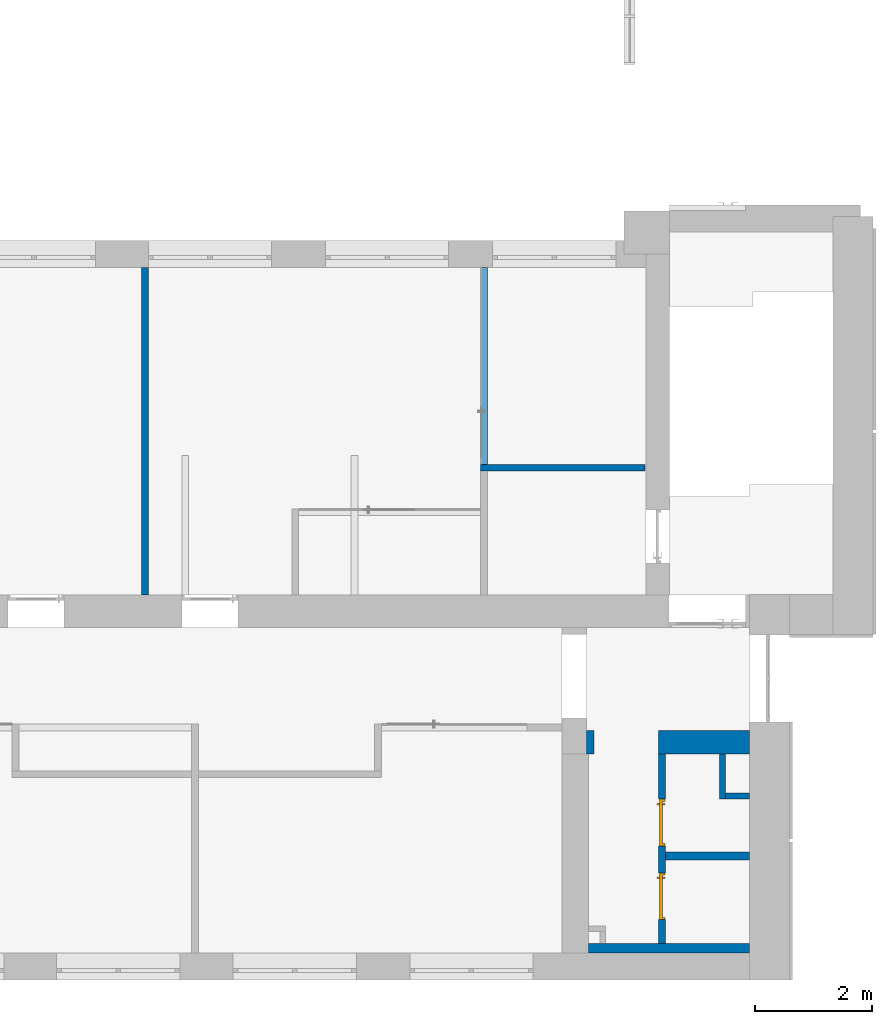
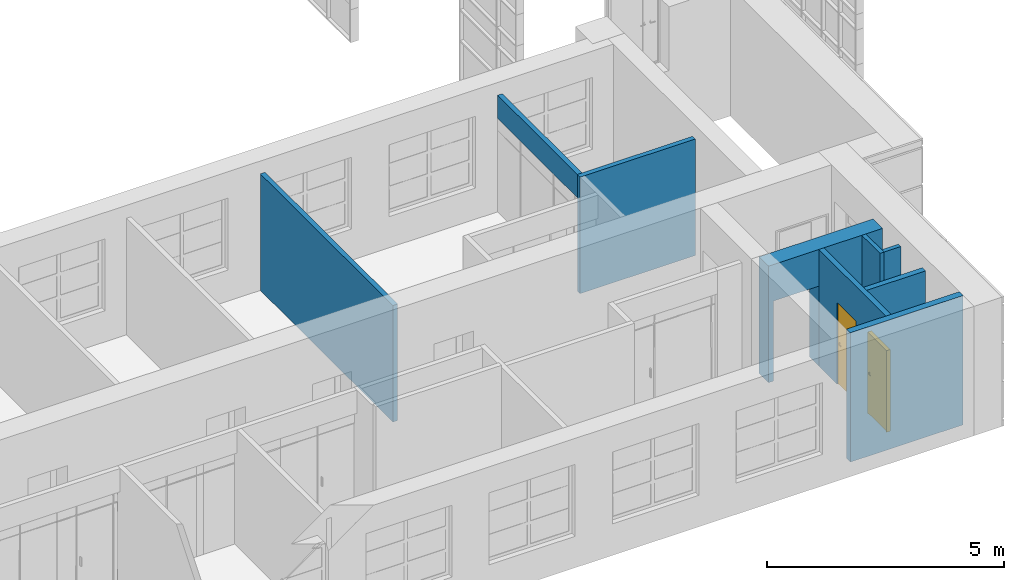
# One storey, part 68 of 73: 9 walls, 2 doors, 3 openings.
"""IFC2X3 building model written with IfcOpenShell, lengths in millimetres."""

from ifc_helpers import new_model, entity, si_unit, converted_unit, derived_unit, direction, frame, frame_2d, origin, origin_2d_with_axis, place, context, subcontext, project, spatial, polyline, rectangle, extrude, clip, bounded_halfspace, faceted_brep, source, transform, mapped, material, material_list, layer, layer_set, layer_usage, type_object, type_shapes, element, fill, save


model = new_model("IFC2X3")

# Units and contexts
model_context = context("Model", 3, precision=0.01, world=origin(), true_north=direction((6.12303176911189e-17, 1.0)))
body_context = subcontext(model_context, "Body", "Model", "MODEL_VIEW")
ifc_project = project(units=[si_unit("LENGTHUNIT", "METRE", prefix="MILLI"), si_unit("AREAUNIT", "SQUARE_METRE"), si_unit("VOLUMEUNIT", "CUBIC_METRE"), converted_unit("PLANEANGLEUNIT", "DEGREE", entity("IfcRatioMeasure", 0.0174532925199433), si_unit("PLANEANGLEUNIT", "RADIAN"), dimensions=[0, 0, 0, 0, 0, 0, 0]), si_unit("MASSUNIT", "GRAM", prefix="KILO"), derived_unit("MASSDENSITYUNIT", [(si_unit("MASSUNIT", "GRAM", prefix="KILO"), 1), (si_unit("LENGTHUNIT", "METRE"), -3)]), si_unit("TIMEUNIT", "SECOND"), si_unit("FREQUENCYUNIT", "HERTZ"), si_unit("THERMODYNAMICTEMPERATUREUNIT", "DEGREE_CELSIUS"), derived_unit("THERMALTRANSMITTANCEUNIT", [(si_unit("MASSUNIT", "GRAM", prefix="KILO"), 1), (si_unit("THERMODYNAMICTEMPERATUREUNIT", "KELVIN"), -1), (si_unit("TIMEUNIT", "SECOND"), -3)]), derived_unit("VOLUMETRICFLOWRATEUNIT", [(si_unit("LENGTHUNIT", "METRE"), 3), (si_unit("TIMEUNIT", "SECOND"), -1)]), si_unit("ELECTRICCURRENTUNIT", "AMPERE"), si_unit("ELECTRICVOLTAGEUNIT", "VOLT"), si_unit("POWERUNIT", "WATT"), si_unit("FORCEUNIT", "NEWTON", prefix="KILO"), si_unit("ILLUMINANCEUNIT", "LUX"), si_unit("LUMINOUSFLUXUNIT", "LUMEN"), si_unit("LUMINOUSINTENSITYUNIT", "CANDELA"), derived_unit("USERDEFINED", [(si_unit("MASSUNIT", "GRAM", prefix="KILO"), -1), (si_unit("LENGTHUNIT", "METRE"), -2), (si_unit("TIMEUNIT", "SECOND"), 3), (si_unit("LUMINOUSFLUXUNIT", "LUMEN"), 1)]), derived_unit("LINEARVELOCITYUNIT", [(si_unit("LENGTHUNIT", "METRE"), 1), (si_unit("TIMEUNIT", "SECOND"), -1)]), si_unit("PRESSUREUNIT", "PASCAL"), derived_unit("USERDEFINED", [(si_unit("LENGTHUNIT", "METRE"), -2), (si_unit("MASSUNIT", "GRAM", prefix="KILO"), 1), (si_unit("TIMEUNIT", "SECOND"), -2)])], contexts=[model_context])

# Site, building, storey
site_placement = place(None, frame((-151.875543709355, 2715.0, 0.0)))
site = spatial("IfcSite", under=ifc_project, at=site_placement, Name="Surface", CompositionType="ELEMENT")
building_placement = place(site_placement, origin())
building = spatial("IfcBuilding", under=site, at=building_placement, CompositionType="ELEMENT")
storey_placement = place(building_placement, frame((0.0, 0.0, 6730.43000000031)))
storey = spatial("IfcBuildingStorey", under=building, at=storey_placement, Name="3 korrus", CompositionType="ELEMENT", Elevation=6730.43000000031)

# Wall, opening
ifc_material_1 = material(Name="__Hall krohv")
ifc_layer_1 = layer(ifc_material_1, 10.0)
ifc_material_2 = material(Name="Tellis")
ifc_layer_2 = layer(ifc_material_2, 380.0)
ifc_layer_3 = layer(ifc_material_1, 10.0)
ifc_layer_set_1 = layer_set([ifc_layer_1, ifc_layer_2, ifc_layer_3], Name="Basic Wall:SS-01_ol.olev tellissein400")
ifc_layer_usage_1 = layer_usage(ifc_layer_set_1, "AXIS2", "NEGATIVE", 200.0)
wall_type_1 = type_object("IfcWallType", Name="Basic Wall:SS-01_ol.olev tellissein400", PredefinedType="STANDARD", material=ifc_layer_set_1)
wall_1_placement = place(storey_placement, frame((33741.6162682, 4053.84289844, 0.00203353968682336), z_axis=(0.0, 0.0, 1.0), x_axis=(-1.0, 0.0, 0.0)))
wall_1 = element("IfcWallStandardCase", 1, at=wall_1_placement, inside=storey, type_object=wall_type_1, material=ifc_layer_usage_1, Name="SEIN - 002", ObjectType="Basic Wall:SS-01_ol.olev tellissein400", context=body_context, shape_type="SweptSolid", body=[
    extrude(rectangle(XDim=2777.5991088, YDim=400.0, at=frame_2d((1388.7995544, 0.0), x_axis=(-1.0, 0.0))), origin(), (0.0, 0.0, 1.0), 2999.56796646),
])
opening_1_placement = place(wall_1_placement, origin())
element("IfcOpeningElement", 2, at=opening_1_placement, cuts=wall_1, Name="SEIN - 002", ObjectType="Opening", context=body_context, shape_type="SweptSolid", body=[
    extrude(rectangle(XDim=2057.662963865, YDim=1100.07592736, at=origin_2d_with_axis()), frame((2105.43835439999, -200.0, 1028.8314819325), z_axis=(0.0, 1.0, 0.0), x_axis=(0.0, 0.0, -1.0)), (0.0, 0.0, 1.0), 400.0),
])

# Walls
ifc_material_3 = material(Name="__Kips GN13_tava")
ifc_layer_4 = layer(ifc_material_3, 12.5)
ifc_layer_5 = layer(ifc_material_3, 12.5)
ifc_material_4 = material(Name="__Soojustus EPS")
ifc_layer_6 = layer(ifc_material_4, 66.0)
ifc_layer_7 = layer(ifc_material_3, 12.5)
ifc_layer_8 = layer(ifc_material_3, 12.5)
ifc_layer_set_2 = layer_set([ifc_layer_4, ifc_layer_5, ifc_layer_6, ifc_layer_7, ifc_layer_8], Name="Basic Wall:SS-3_Kipssein tava ruumide vahel")
ifc_layer_usage_2 = layer_usage(ifc_layer_set_2, "AXIS2", "NEGATIVE", 58.0)
wall_type_2 = type_object("IfcWallType", Name="Basic Wall:SS-3_Kipssein tava ruumide vahel", PredefinedType="STANDARD", material=ifc_layer_set_2)
wall_2_placement = place(storey_placement, frame((23435.05309771, 12150.0, 0.0), z_axis=(0.0, 0.0, 1.0), x_axis=(0.0, -1.0, 0.0)))
element("IfcWallStandardCase", 3, at=wall_2_placement, inside=storey, type_object=wall_type_2, material=ifc_layer_usage_2, Name="Basic Wall:SS-3_Kipssein tava ruumide vahel", ObjectType="Basic Wall:SS-3_Kipssein tava ruumide vahel", context=body_context, shape_type="SweptSolid", body=[
    extrude(rectangle(XDim=5590.0, YDim=116.0, at=frame_2d((2795.0, 0.0), x_axis=(-1.0, 0.0))), origin(), (0.0, 0.0, 1.0), 3000.0),
])
ifc_layer_usage_3 = layer_usage(ifc_layer_set_2, "AXIS2", "NEGATIVE", 58.0)
wall_3_placement = place(storey_placement, frame((29213.6162681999, 12150.0, 2400.0), z_axis=(0.0, 0.0, 1.0), x_axis=(0.0, -1.0, 0.0)))
element("IfcWallStandardCase", 4, at=wall_3_placement, inside=storey, type_object=wall_type_2, material=ifc_layer_usage_3, Name="Basic Wall:SS-3_Kipssein tava ruumide vahel", ObjectType="Basic Wall:SS-3_Kipssein tava ruumide vahel", context=body_context, shape_type="SweptSolid", body=[
    extrude(rectangle(XDim=3360.1702761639, YDim=116.0, at=frame_2d((1680.08513808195, -1.3855583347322e-13), x_axis=(-1.0, 0.0))), origin(), (0.0, 0.0, 1.0), 599.999999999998),
])
ifc_layer_9 = layer(ifc_material_3, 12.5)
ifc_layer_10 = layer(ifc_material_3, 12.5)
ifc_layer_11 = layer(ifc_material_4, 66.0)
ifc_layer_12 = layer(ifc_material_3, 12.5)
ifc_layer_13 = layer(ifc_material_3, 12.5)
ifc_layer_set_3 = layer_set([ifc_layer_9, ifc_layer_10, ifc_layer_11, ifc_layer_12, ifc_layer_13], Name="Basic Wall:SS-3*_Kipssein EI-60")
ifc_layer_usage_4 = layer_usage(ifc_layer_set_3, "AXIS2", "NEGATIVE", 58.0)
wall_type_3 = type_object("IfcWallType", Name="Basic Wall:SS-3*_Kipssein EI-60", PredefinedType="STANDARD", material=ifc_layer_set_3)
wall_4_placement = place(storey_placement, frame((31962.6162682, 8731.82972383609, 0.0), z_axis=(0.0, 0.0, 1.0), x_axis=(-1.0, 0.0, 0.0)))
element("IfcWallStandardCase", 5, at=wall_4_placement, inside=storey, type_object=wall_type_3, material=ifc_layer_usage_4, Name="Basic Wall:SS-3*_Kipssein EI-60", ObjectType="Basic Wall:SS-3*_Kipssein EI-60", context=body_context, shape_type="SweptSolid", body=[
    extrude(rectangle(XDim=2807.00000000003, YDim=116.0, at=frame_2d((1403.50000000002, 1.74082970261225e-13), x_axis=(-1.0, 0.0))), origin(), (0.0, 0.0, 1.0), 3000.0),
])
ifc_material_5 = material(Name="GENEERILINE - KONSTRUKTRIOON")
ifc_layer_14 = layer(ifc_material_5, 160.0)
ifc_layer_set_4 = layer_set([ifc_layer_14], Name="Basic Wall:GENEERILINE - KONSTRUKTRIOON 160")
ifc_layer_usage_5 = layer_usage(ifc_layer_set_4, "AXIS2", "NEGATIVE", 80.0)
wall_type_4 = type_object("IfcWallType", Name="Basic Wall:GENEERILINE - KONSTRUKTRIOON 160", PredefinedType="STANDARD", material=ifc_layer_set_4)
wall_5_placement = place(storey_placement, frame((30994.0171594, 539.904632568, 0.00203353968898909)))
element("IfcWallStandardCase", 6, at=wall_5_placement, inside=storey, type_object=wall_type_4, material=ifc_layer_usage_5, Name="SEIN - 010", ObjectType="Basic Wall:GENEERILINE - KONSTRUKTRIOON 160", context=body_context, shape_type="SweptSolid", body=[
    extrude(rectangle(XDim=2747.5991088, YDim=160.0, at=frame_2d((1373.7995544, 0.0), x_axis=(-1.0, 0.0))), origin(), (0.0, 0.0, 1.0), 3329.56796646),
])
ifc_material_6 = material(Name="Keraamiline_plaat")
ifc_layer_15 = layer(ifc_material_6, 10.0)
ifc_material_7 = material(Name="__Kips GKB_niiskuskindel")
ifc_layer_16 = layer(ifc_material_7, 12.5)
ifc_layer_17 = layer(ifc_material_7, 12.5)
ifc_layer_18 = layer(ifc_material_4, 66.0)
ifc_layer_19 = layer(ifc_material_7, 12.5)
ifc_layer_20 = layer(ifc_material_7, 12.5)
ifc_layer_21 = layer(ifc_material_6, 10.0)
ifc_layer_set_5 = layer_set([ifc_layer_15, ifc_layer_16, ifc_layer_17, ifc_layer_18, ifc_layer_19, ifc_layer_20, ifc_layer_21], Name="Basic Wall:SS-5_Kipssein niiskete ruumide vahel")
ifc_layer_usage_6 = layer_usage(ifc_layer_set_5, "AXIS2", "NEGATIVE", 68.0)
wall_type_5 = type_object("IfcWallType", Name="Basic Wall:SS-5_Kipssein niiskete ruumide vahel", PredefinedType="STANDARD", material=ifc_layer_set_5)
wall_6_placement = place(storey_placement, frame((33741.6162682, 2115.77522812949, 0.0), z_axis=(0.0, 0.0, 1.0), x_axis=(-1.0, 0.0, 0.0)))
element("IfcWallStandardCase", 7, at=wall_6_placement, inside=storey, type_object=wall_type_5, material=ifc_layer_usage_6, Name="Basic Wall:SS-5_Kipssein niiskete ruumide vahel", ObjectType="Basic Wall:SS-5_Kipssein niiskete ruumide vahel", context=body_context, shape_type="Clipping", body=[
    clip(extrude(rectangle(XDim=1429.40039062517, YDim=136.0, at=frame_2d((714.700195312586, 0.0), x_axis=(-1.0, 0.0))), origin(), (0.0, 0.0, 1.0), 2999.57000000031), bounded_halfspace(frame((9.00058725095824e-08, -68.0, 2999.57000000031), z_axis=(0.0, 0.0, -1.0), x_axis=(1.0, 0.0, 0.0)), True, frame((9.00058725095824e-08, -68.0, 2999.57000000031)), polyline([(0.0, 0.0), (1429.40039053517, 0.0), (1429.40039053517, 136.0), (-9.00040504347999e-08, 136.0), (0.0, 0.0)]))),
])

# Wall, openings, doors
ifc_layer_22 = layer(ifc_material_3, 12.5)
ifc_layer_23 = layer(ifc_material_3, 12.5)
ifc_layer_24 = layer(ifc_material_4, 66.0)
ifc_layer_25 = layer(ifc_material_7, 12.5)
ifc_layer_26 = layer(ifc_material_7, 12.5)
ifc_layer_27 = layer(ifc_material_6, 10.0)
ifc_layer_set_6 = layer_set([ifc_layer_22, ifc_layer_23, ifc_layer_24, ifc_layer_25, ifc_layer_26, ifc_layer_27], Name="Basic Wall:SS-4_Kipssein tava ja niiske ruumi vahel")
ifc_layer_usage_7 = layer_usage(ifc_layer_set_6, "AXIS2", "NEGATIVE", 63.0)
wall_type_6 = type_object("IfcWallType", Name="Basic Wall:SS-4_Kipssein tava ja niiske ruumi vahel", PredefinedType="STANDARD", material=ifc_layer_set_6)
wall_7_placement = place(storey_placement, frame((32249.2158775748, 619.904632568, 0.0), z_axis=(0.0, 0.0, 1.0), x_axis=(0.0, 1.0, 0.0)))
wall_7 = element("IfcWallStandardCase", 8, at=wall_7_placement, inside=storey, type_object=wall_type_6, material=ifc_layer_usage_7, Name="Basic Wall:SS-4_Kipssein tava ja niiske ruumi vahel", ObjectType="Basic Wall:SS-4_Kipssein tava ja niiske ruumi vahel", context=body_context, shape_type="Clipping", body=[
    clip(extrude(rectangle(XDim=3233.938265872, YDim=125.999999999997, at=frame_2d((1616.969132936, 1.06581410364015e-14), x_axis=(-1.0, 0.0))), origin(), (0.0, 0.0, 1.0), 2999.57000000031), bounded_halfspace(frame((0.0, -63.0, 2999.57000000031), z_axis=(0.0, 0.0, -1.0), x_axis=(0.0, 1.0, 0.0)), True, frame((0.0, -63.0, 2999.57000000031)), polyline([(0.0, 0.0), (1427.8705955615, 0.0), (1563.8705955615, 0.0), (3233.938265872, 0.0), (3233.938265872, 126.0), (0.0, 126.0), (0.0, 0.0)]))),
])
opening_2_placement = place(wall_7_placement, frame((407.813171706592, -63.0, 0.0)))
opening_2 = element("IfcOpeningElement", 9, at=opening_2_placement, cuts=wall_7, Name="Ühepoolsed:SU-05:1", ObjectType="Opening", context=body_context, shape_type="SweptSolid", body=[
    extrude(rectangle(XDim=2099.99999999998, YDim=800.0, at=frame_2d((1049.99999999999, 400.0), x_axis=(1.0, 0.0))), frame((0.0, 0.0, 0.0), z_axis=(0.0, 1.0, 0.0), x_axis=(0.0, 0.0, 1.0)), (0.0, 0.0, 1.0), 126.0),
])
opening_3_placement = place(wall_7_placement, frame((1663.87059556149, -63.0, 0.0)))
opening_3 = element("IfcOpeningElement", 10, at=opening_3_placement, cuts=wall_7, Name="Ühepoolsed:SU-05:1", ObjectType="Opening", context=body_context, shape_type="SweptSolid", body=[
    extrude(rectangle(XDim=2099.99999999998, YDim=800.0, at=frame_2d((1049.99999999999, 400.0), x_axis=(1.0, 0.0))), frame((0.0, 0.0, 0.0), z_axis=(0.0, 1.0, 0.0), x_axis=(0.0, 0.0, 1.0)), (0.0, 0.0, 1.0), 126.0),
])
ifc_material_8 = material(Name="_Alumiiniumprofiil - must")
ifc_material_9 = material(Name="__Uks_hele tamm")
ifc_material_list_1 = material_list([ifc_material_8, ifc_material_9])
ifc_material_list_2 = material_list([ifc_material_8, ifc_material_9])
door_style = type_object("IfcDoorStyle", Name="SU-05", ConstructionType="NOTDEFINED", OperationType="FOLDING_TO_LEFT", ParameterTakesPrecedence=False, Sizeable=False, material=ifc_material_list_2)
shared_shape = source(origin(), body_context, "Body", "Brep", [
    faceted_brep([(700.0, 16.0, 1112.5), (605.0, 16.0, 1112.5), (605.0, 11.0, 1112.5), (725.0, 11.0, 1112.5), (725.0, 54.0, 1112.5), (700.0, 54.0, 1112.5), (700.0, 16.0, 1087.5), (700.0, 54.0, 1087.5), (725.0, 54.0, 1087.5), (725.0, 11.0, 1087.5), (605.0, 11.0, 1087.5), (605.0, 16.0, 1087.5)], [[[0, 1, 2, 3, 4, 5]], [[6, 7, 8, 9, 10, 11]], [[5, 7, 6, 0]], [[4, 8, 7, 5]], [[3, 9, 8, 4]], [[2, 10, 9, 3]], [[1, 11, 10, 2]], [[0, 6, 11, 1]]]),
    faceted_brep([(687.500000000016, 54.0, 1137.5), (737.500000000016, 54.0, 1137.5), (737.500000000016, 56.0, 1137.5), (687.500000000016, 56.0, 1137.5), (687.500000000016, 54.0, 1017.5), (687.500000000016, 56.0, 1017.5), (737.500000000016, 56.0, 1017.5), (737.500000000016, 54.0, 1017.5)], [[[0, 1, 2, 3]], [[4, 5, 6, 7]], [[3, 5, 4, 0]], [[2, 6, 5, 3]], [[1, 7, 6, 2]], [[0, 4, 7, 1]]]),
    faceted_brep([(700.0, 146.0, 1112.5), (700.0, 108.0, 1112.5), (725.0, 108.0, 1112.5), (725.0, 151.0, 1112.5), (605.0, 151.0, 1112.5), (605.0, 146.0, 1112.5), (700.0, 146.0, 1087.5), (605.0, 146.0, 1087.5), (605.0, 151.0, 1087.5), (725.0, 151.0, 1087.5), (725.0, 108.0, 1087.5), (700.0, 108.0, 1087.5)], [[[0, 1, 2, 3, 4, 5]], [[6, 7, 8, 9, 10, 11]], [[1, 0, 6, 11]], [[2, 1, 11, 10]], [[3, 2, 10, 9]], [[4, 3, 9, 8]], [[5, 4, 8, 7]], [[0, 5, 7, 6]]]),
    faceted_brep([(687.500000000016, 108.0, 1137.5), (687.500000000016, 106.0, 1137.5), (737.500000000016, 106.0, 1137.5), (737.500000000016, 108.0, 1137.5), (687.500000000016, 108.0, 1017.5), (737.500000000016, 108.0, 1017.5), (737.500000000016, 106.0, 1017.5), (687.500000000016, 106.0, 1017.5)], [[[0, 1, 2, 3]], [[4, 5, 6, 7]], [[1, 0, 4, 7]], [[2, 1, 7, 6]], [[3, 2, 6, 5]], [[0, 3, 5, 4]]]),
    faceted_brep([(0.0, 16.0, 0.0), (0.0, 106.0, 0.0), (25.0, 106.0, 0.0), (25.0, 56.0, 0.0), (40.0, 56.0, 0.0), (40.0, 16.0, 0.0), (40.0, 16.0, 2060.0), (760.0, 16.0, 2060.0), (760.0, 16.0, 0.0), (800.0, 16.0, 0.0), (800.0, 16.0, 2100.0), (0.0, 16.0, 2100.0), (40.0, 56.0, 2060.0), (25.0, 56.0, 2075.0), (775.0, 56.0, 2075.0), (775.0, 56.0, 0.0), (760.0, 56.0, 0.0), (760.0, 56.0, 2060.0), (25.0, 106.0, 2075.0), (0.0, 106.0, 2100.0), (800.0, 106.0, 2100.0), (800.0, 106.0, 0.0), (775.0, 106.0, 0.0), (775.0, 106.0, 2075.0)], [[[0, 1, 2, 3, 4, 5]], [[5, 6, 7, 8, 9, 10, 11, 0]], [[4, 12, 6, 5]], [[3, 13, 14, 15, 16, 17, 12, 4]], [[2, 18, 13, 3]], [[1, 19, 20, 21, 22, 23, 18, 2]], [[0, 11, 19, 1]], [[9, 21, 20, 10]], [[8, 16, 15, 22, 21, 9]], [[7, 17, 16, 8]], [[14, 23, 22, 15]], [[6, 12, 17, 7]], [[13, 18, 23, 14]], [[10, 20, 19, 11]]]),
    faceted_brep([(775.0, 56.0, 2075.0), (25.0, 56.0, 2075.0), (25.0, 56.0, 20.0), (775.0, 56.0, 20.0), (775.0, 106.0, 2075.0), (775.0, 106.0, 20.0), (25.0, 106.0, 20.0), (25.0, 106.0, 2075.0)], [[[0, 1, 2, 3]], [[4, 5, 6, 7]], [[3, 5, 4, 0]], [[2, 6, 5, 3]], [[1, 7, 6, 2]], [[0, 4, 7, 1]]]),
])
type_shapes(door_style, [shared_shape])
door_1_placement = place(opening_2_placement, origin())
door_1 = element("IfcDoor", 11, at=door_1_placement, inside=storey, type_object=door_style, material=ifc_material_list_1, Name="Ühepoolsed:SU-05", ObjectType="SU-05", OverallHeight=2099.99999999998, OverallWidth=800.0, context=body_context, shape_type="MappedRepresentation", body=[
    mapped(shared_shape, transform((0.0, 0.0, 0.0), scale=1.0)),
])
fill(opening_2, door_1)
ifc_material_list_3 = material_list([ifc_material_8, ifc_material_9])
door_2_placement = place(opening_3_placement, origin())
door_2 = element("IfcDoor", 12, at=door_2_placement, inside=storey, type_object=door_style, material=ifc_material_list_3, Name="Ühepoolsed:SU-05", ObjectType="SU-05", OverallHeight=2099.99999999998, OverallWidth=800.0, context=body_context, shape_type="MappedRepresentation", body=[
    mapped(shared_shape, transform((0.0, 0.0, 0.0), scale=1.0)),
])
fill(opening_3, door_2)

# Walls
ifc_material_10 = material(Name="__Helehall")
ifc_layer_28 = layer(ifc_material_10, 10.0)
ifc_material_11 = material(Name="__Kergblokk")
ifc_layer_29 = layer(ifc_material_11, 90.0)
ifc_layer_set_7 = layer_set([ifc_layer_28, ifc_layer_29], Name="Basic Wall:SS-6_Šahti sein EI-60")
ifc_layer_usage_8 = layer_usage(ifc_layer_set_7, "AXIS2", "POSITIVE", -50.0)
wall_type_7 = type_object("IfcWallType", Name="Basic Wall:SS-6_Šahti sein EI-60", PredefinedType="STANDARD", material=ifc_layer_set_7)
wall_8_placement = place(storey_placement, frame((33331.6162681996, 3133.77522812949, 0.0)))
element("IfcWallStandardCase", 13, at=wall_8_placement, inside=storey, type_object=wall_type_7, material=ifc_layer_usage_8, Name="Basic Wall:SS-6_Šahti sein EI-60", ObjectType="Basic Wall:SS-6_Šahti sein EI-60", context=body_context, shape_type="SweptSolid", body=[
    extrude(rectangle(XDim=410.000000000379, YDim=100.0, at=frame_2d((205.000000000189, 0.0), x_axis=(-1.0, 0.0))), origin(), (0.0, 0.0, 1.0), 2999.57),
])
ifc_layer_usage_9 = layer_usage(ifc_layer_set_7, "AXIS2", "POSITIVE", -50.0)
wall_9_placement = place(storey_placement, frame((33281.6162681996, 3853.84289844, 0.0), z_axis=(0.0, 0.0, 1.0), x_axis=(0.0, -1.0, 0.0)))
element("IfcWallStandardCase", 14, at=wall_9_placement, inside=storey, type_object=wall_type_7, material=ifc_layer_usage_9, Name="Basic Wall:SS-6_Šahti sein EI-60", ObjectType="Basic Wall:SS-6_Šahti sein EI-60", context=body_context, shape_type="SweptSolid", body=[
    extrude(rectangle(XDim=770.067670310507, YDim=100.000000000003, at=frame_2d((385.033835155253, -4.9737991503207e-13), x_axis=(-1.0, 0.0))), origin(), (0.0, 0.0, 1.0), 2999.56999999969),
])

save(model, "model.ifc")
